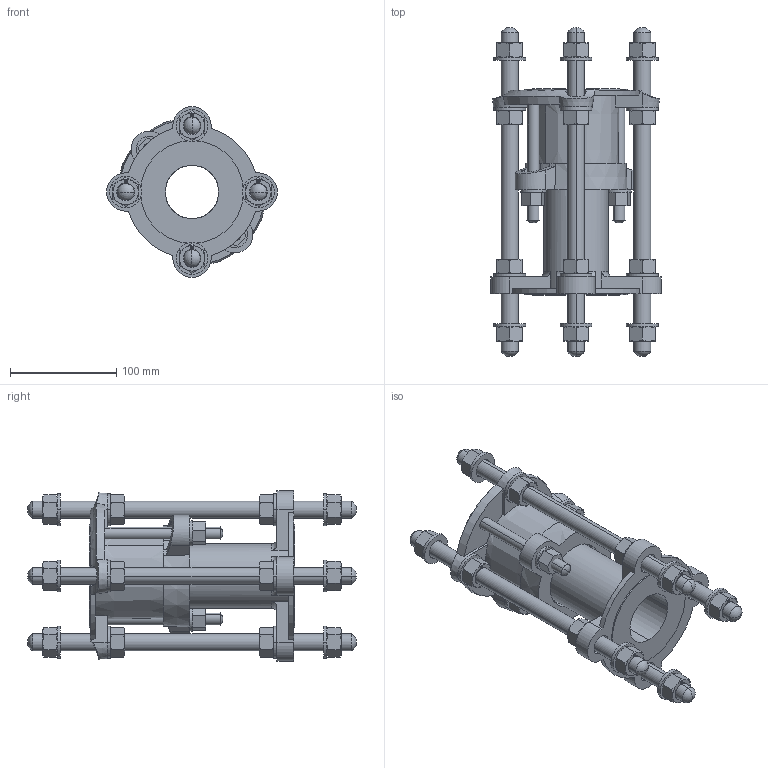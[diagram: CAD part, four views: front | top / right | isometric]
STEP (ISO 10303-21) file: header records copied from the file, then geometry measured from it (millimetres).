
FILE_DESCRIPTION((''),'2;1');
FILE_NAME('BIM_10435_394_ASM','2021-01-11T',('MReader'),(''),'CREO PARAMETRIC BY PTC INC, 2016130','CREO PARAMETRIC BY PTC INC, 2016130','');
FILE_SCHEMA(('CONFIG_CONTROL_DESIGN'));
Length unit declared in the file: millimetre
Products named in the file (9): BIM_12483; BIM_12518_02; BIM_12501_01_ASM; 13517_BIM; 300_TIE_BOLT; 10467_4; 12442_6; M16_NUT_WASHER_ASM; BIM_10435_394_ASM
Assembly tree (26 placements, depth 3):
  BIM_10435_394_ASM
    BIM_12501_01_ASM
      BIM_12483
      BIM_12518_02
    13517_BIM
    300_TIE_BOLT  x4
    M16_NUT_WASHER_ASM  x16
      10467_4
      12442_6
Bounding box: 161 x 310 x 161 mm (x, y, z)
Volume: 924145.9 mm3; surface area: 323846.1 mm2
Topology: 39 solids, 55 shells, 1703 faces, 4530 edges, 2908 vertices
Faces by surface type: plane 1205, cone 280, cylinder 188, sphere 20, torus 6, bspline 4
Entity records: 9020 total; most frequent: CARTESIAN_POINT 2181, DIRECTION 1409, ORIENTED_EDGE 1366, EDGE_CURVE 685, AXIS2_PLACEMENT_3D 521, VERTEX_POINT 445, VECTOR 367, LINE 367
